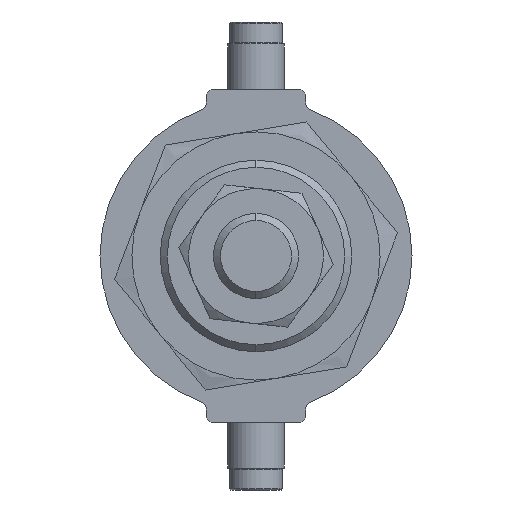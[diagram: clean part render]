
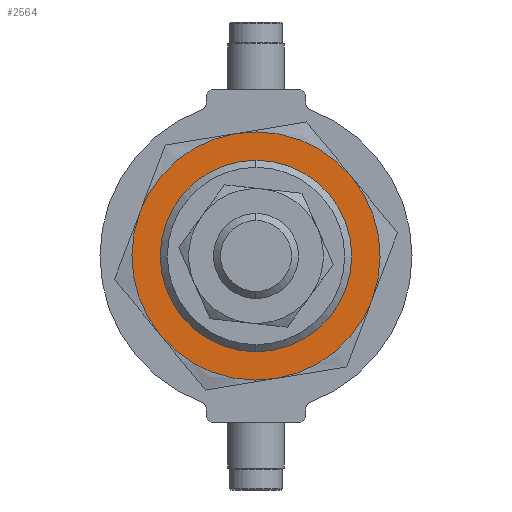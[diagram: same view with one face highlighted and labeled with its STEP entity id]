
A CAD part, left-side view. The second image highlights one B-rep face of the part: STEP entity #2564.
In plain terms, the highlighted planar face has unit normal (-1, 0, 0) as drawn and (0, 0, -1) by its records, which use the part's own axes.
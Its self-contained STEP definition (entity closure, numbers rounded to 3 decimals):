
#32 = PLANE ( 'NONE',  #1606 ) ;
#101 = CARTESIAN_POINT ( 'NONE',  ( 0., 0., -1.5 ) ) ;
#207 = EDGE_CURVE ( 'NONE', #2969, #4681, #3936, .T. ) ;
#268 = CARTESIAN_POINT ( 'NONE',  ( 0., 0., -1.5 ) ) ;
#395 = AXIS2_PLACEMENT_3D ( 'NONE', #3592, #2912, #2016 ) ;
#400 = EDGE_LOOP ( 'NONE', ( #3892, #4368 ) ) ;
#414 = DIRECTION ( 'NONE',  ( 0., 0., 1. ) ) ;
#429 = DIRECTION ( 'NONE',  ( 0., 0., 1. ) ) ;
#462 = ORIENTED_EDGE ( 'NONE', *, *, #207, .F. ) ;
#519 = FACE_OUTER_BOUND ( 'NONE', #663, .T. ) ;
#568 = ORIENTED_EDGE ( 'NONE', *, *, #5182, .F. ) ;
#663 = EDGE_LOOP ( 'NONE', ( #5518, #3511, #2067, #1482, #462, #568 ) ) ;
#685 = CIRCLE ( 'NONE', #3938, 17.5 ) ;
#702 = CARTESIAN_POINT ( 'NONE',  ( 8.75, 15.155, -1.5 ) ) ;
#799 = EDGE_CURVE ( 'NONE', #4176, #3898, #4809, .T. ) ;
#814 = CIRCLE ( 'NONE', #4257, 17.5 ) ;
#833 = DIRECTION ( 'NONE',  ( 1., 0., 0. ) ) ;
#865 = EDGE_CURVE ( 'NONE', #4531, #4529, #5365, .T. ) ;
#989 = EDGE_CURVE ( 'NONE', #4529, #4531, #5589, .T. ) ;
#1049 = DIRECTION ( 'NONE',  ( 1., 0., 0. ) ) ;
#1109 = CARTESIAN_POINT ( 'NONE',  ( -17.5, 0., -1.5 ) ) ;
#1181 = DIRECTION ( 'NONE',  ( 1., 0., 0. ) ) ;
#1263 = CARTESIAN_POINT ( 'NONE',  ( 0., 0., -1.5 ) ) ;
#1283 = CARTESIAN_POINT ( 'NONE',  ( 12.5, 0., -1.5 ) ) ;
#1482 = ORIENTED_EDGE ( 'NONE', *, *, #5306, .F. ) ;
#1606 = AXIS2_PLACEMENT_3D ( 'NONE', #4067, #2703, #3869 ) ;
#1714 = DIRECTION ( 'NONE',  ( 0., 0., 1. ) ) ;
#2016 = DIRECTION ( 'NONE',  ( 1., 0., 0. ) ) ;
#2067 = ORIENTED_EDGE ( 'NONE', *, *, #3552, .F. ) ;
#2142 = CARTESIAN_POINT ( 'NONE',  ( -12.5, 0., -1.5 ) ) ;
#2199 = CARTESIAN_POINT ( 'NONE',  ( 0., 0., -1.5 ) ) ;
#2319 = DIRECTION ( 'NONE',  ( 0., 0., 1. ) ) ;
#2564 = ADVANCED_FACE ( 'NONE', ( #3376, #519 ), #32, .F. ) ;
#2703 = DIRECTION ( 'NONE',  ( 0., 0., 1. ) ) ;
#2912 = DIRECTION ( 'NONE',  ( 0., 0., 1. ) ) ;
#2969 = VERTEX_POINT ( 'NONE', #5614 ) ;
#2997 = CIRCLE ( 'NONE', #5290, 17.5 ) ;
#3281 = CARTESIAN_POINT ( 'NONE',  ( 8.75, -15.155, -1.5 ) ) ;
#3376 = FACE_BOUND ( 'NONE', #400, .T. ) ;
#3456 = DIRECTION ( 'NONE',  ( 0., 0., 1. ) ) ;
#3498 = DIRECTION ( 'NONE',  ( 0., 0., 1. ) ) ;
#3511 = ORIENTED_EDGE ( 'NONE', *, *, #5861, .F. ) ;
#3552 = EDGE_CURVE ( 'NONE', #3813, #4283, #2997, .T. ) ;
#3581 = DIRECTION ( 'NONE',  ( 1., 0., 0. ) ) ;
#3592 = CARTESIAN_POINT ( 'NONE',  ( 0., 0., -1.5 ) ) ;
#3714 = AXIS2_PLACEMENT_3D ( 'NONE', #268, #2319, #833 ) ;
#3732 = AXIS2_PLACEMENT_3D ( 'NONE', #3790, #3498, #1181 ) ;
#3790 = CARTESIAN_POINT ( 'NONE',  ( 0., 0., -1.5 ) ) ;
#3813 = VERTEX_POINT ( 'NONE', #5862 ) ;
#3869 = DIRECTION ( 'NONE',  ( 1., 0., 0. ) ) ;
#3892 = ORIENTED_EDGE ( 'NONE', *, *, #989, .T. ) ;
#3898 = VERTEX_POINT ( 'NONE', #702 ) ;
#3936 = CIRCLE ( 'NONE', #4972, 17.5 ) ;
#3938 = AXIS2_PLACEMENT_3D ( 'NONE', #4329, #4522, #3581 ) ;
#4067 = CARTESIAN_POINT ( 'NONE',  ( 0., 0., -1.5 ) ) ;
#4157 = CARTESIAN_POINT ( 'NONE',  ( 0., 0., -1.5 ) ) ;
#4176 = VERTEX_POINT ( 'NONE', #4901 ) ;
#4206 = AXIS2_PLACEMENT_3D ( 'NONE', #1263, #1714, #5882 ) ;
#4257 = AXIS2_PLACEMENT_3D ( 'NONE', #2199, #414, #5087 ) ;
#4283 = VERTEX_POINT ( 'NONE', #3281 ) ;
#4329 = CARTESIAN_POINT ( 'NONE',  ( 0., 0., -1.5 ) ) ;
#4368 = ORIENTED_EDGE ( 'NONE', *, *, #865, .T. ) ;
#4477 = CIRCLE ( 'NONE', #3714, 17.5 ) ;
#4522 = DIRECTION ( 'NONE',  ( 0., 0., 1. ) ) ;
#4529 = VERTEX_POINT ( 'NONE', #1283 ) ;
#4531 = VERTEX_POINT ( 'NONE', #2142 ) ;
#4681 = VERTEX_POINT ( 'NONE', #1109 ) ;
#4809 = CIRCLE ( 'NONE', #395, 17.5 ) ;
#4901 = CARTESIAN_POINT ( 'NONE',  ( 17.5, 0., -1.5 ) ) ;
#4972 = AXIS2_PLACEMENT_3D ( 'NONE', #101, #3456, #1049 ) ;
#5087 = DIRECTION ( 'NONE',  ( 1., 0., 0. ) ) ;
#5182 = EDGE_CURVE ( 'NONE', #3898, #2969, #814, .T. ) ;
#5290 = AXIS2_PLACEMENT_3D ( 'NONE', #4157, #429, #5799 ) ;
#5306 = EDGE_CURVE ( 'NONE', #4681, #3813, #685, .T. ) ;
#5365 = CIRCLE ( 'NONE', #4206, 12.5 ) ;
#5518 = ORIENTED_EDGE ( 'NONE', *, *, #799, .F. ) ;
#5589 = CIRCLE ( 'NONE', #3732, 12.5 ) ;
#5614 = CARTESIAN_POINT ( 'NONE',  ( -8.75, 15.155, -1.5 ) ) ;
#5799 = DIRECTION ( 'NONE',  ( 1., 0., 0. ) ) ;
#5861 = EDGE_CURVE ( 'NONE', #4283, #4176, #4477, .T. ) ;
#5862 = CARTESIAN_POINT ( 'NONE',  ( -8.75, -15.155, -1.5 ) ) ;
#5882 = DIRECTION ( 'NONE',  ( 1., 0., 0. ) ) ;
